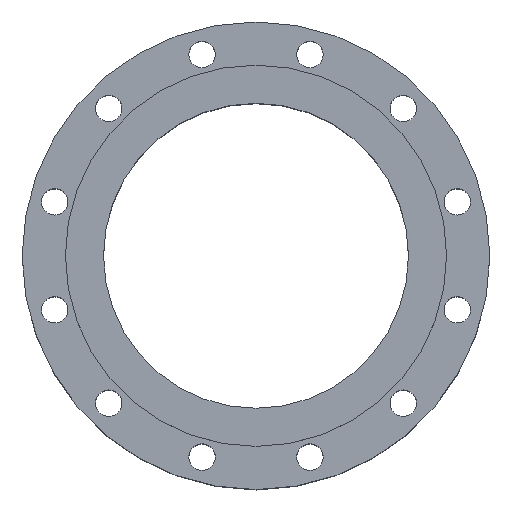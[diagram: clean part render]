
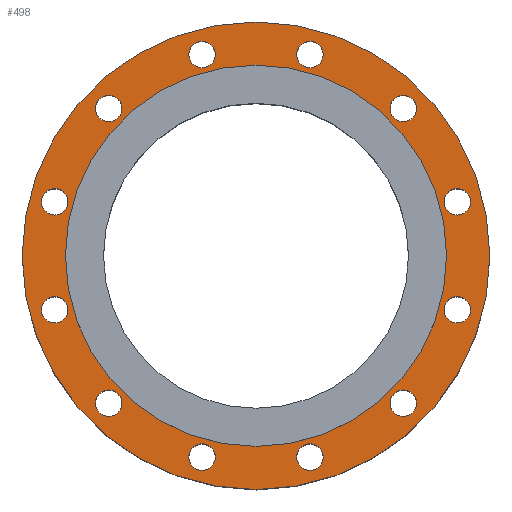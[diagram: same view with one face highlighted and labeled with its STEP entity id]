
A CAD part, top view. The second image highlights one B-rep face of the part: STEP entity #498.
In plain terms, the highlighted planar face has unit normal (0, 0, 1).
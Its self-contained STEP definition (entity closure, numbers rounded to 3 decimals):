
#498=ADVANCED_FACE('',(#1067,#1069,#1071,#1073,#1075,#1077,#1079,#1081,#1083,#1085,
#1087,#1089,#1091,#1093),#1095,.T.);
#1067=FACE_BOUND('',#1068,.T.);
#1068=EDGE_LOOP('',(#1388));
#1069=FACE_BOUND('',#1070,.T.);
#1070=EDGE_LOOP('',(#1389));
#1071=FACE_BOUND('',#1072,.T.);
#1072=EDGE_LOOP('',(#1390));
#1073=FACE_BOUND('',#1074,.T.);
#1074=EDGE_LOOP('',(#1391));
#1075=FACE_BOUND('',#1076,.T.);
#1076=EDGE_LOOP('',(#1392));
#1077=FACE_BOUND('',#1078,.T.);
#1078=EDGE_LOOP('',(#1393));
#1079=FACE_BOUND('',#1080,.T.);
#1080=EDGE_LOOP('',(#1394));
#1081=FACE_BOUND('',#1082,.T.);
#1082=EDGE_LOOP('',(#1395));
#1083=FACE_BOUND('',#1084,.T.);
#1084=EDGE_LOOP('',(#1396));
#1085=FACE_BOUND('',#1086,.T.);
#1086=EDGE_LOOP('',(#1397));
#1087=FACE_BOUND('',#1088,.T.);
#1088=EDGE_LOOP('',(#1398));
#1089=FACE_BOUND('',#1090,.T.);
#1090=EDGE_LOOP('',(#1399));
#1091=FACE_BOUND('',#1092,.T.);
#1092=EDGE_LOOP('',(#1400));
#1093=FACE_BOUND('',#1094,.T.);
#1094=EDGE_LOOP('',(#1401));
#1095=PLANE('',#1096);
#1096=AXIS2_PLACEMENT_3D('',#1097,#1098,#1099);
#1097=CARTESIAN_POINT('',(0.,0.,112.5));
#1098=DIRECTION('',(0.,0.,1.));
#1099=DIRECTION('',(0.,1.,0.));
#1388=ORIENTED_EDGE('',*,*,#1508,.F.);
#1389=ORIENTED_EDGE('',*,*,#1509,.T.);
#1390=ORIENTED_EDGE('',*,*,#1510,.T.);
#1391=ORIENTED_EDGE('',*,*,#1511,.T.);
#1392=ORIENTED_EDGE('',*,*,#1512,.T.);
#1393=ORIENTED_EDGE('',*,*,#1513,.T.);
#1394=ORIENTED_EDGE('',*,*,#1514,.T.);
#1395=ORIENTED_EDGE('',*,*,#1515,.T.);
#1396=ORIENTED_EDGE('',*,*,#1516,.T.);
#1397=ORIENTED_EDGE('',*,*,#1517,.T.);
#1398=ORIENTED_EDGE('',*,*,#1518,.T.);
#1399=ORIENTED_EDGE('',*,*,#1519,.T.);
#1400=ORIENTED_EDGE('',*,*,#1534,.T.);
#1401=ORIENTED_EDGE('',*,*,#1520,.T.);
#1508=EDGE_CURVE('',#1678,#1678,#1679,.T.);
#1509=EDGE_CURVE('',#1680,#1680,#1681,.T.);
#1510=EDGE_CURVE('',#1682,#1682,#1683,.T.);
#1511=EDGE_CURVE('',#1684,#1684,#1685,.T.);
#1512=EDGE_CURVE('',#1686,#1686,#1687,.T.);
#1513=EDGE_CURVE('',#1688,#1688,#1689,.T.);
#1514=EDGE_CURVE('',#1690,#1690,#1691,.T.);
#1515=EDGE_CURVE('',#1692,#1692,#1693,.T.);
#1516=EDGE_CURVE('',#1694,#1694,#1695,.T.);
#1517=EDGE_CURVE('',#1696,#1696,#1697,.T.);
#1518=EDGE_CURVE('',#1698,#1698,#1699,.T.);
#1519=EDGE_CURVE('',#1700,#1700,#1701,.T.);
#1520=EDGE_CURVE('',#1702,#1702,#1703,.T.);
#1534=EDGE_CURVE('',#1730,#1730,#1731,.T.);
#1678=VERTEX_POINT('',#3094);
#1679=CIRCLE('',#3095,230.);
#1680=VERTEX_POINT('',#3099);
#1681=CIRCLE('',#3100,13.);
#1682=VERTEX_POINT('',#3104);
#1683=CIRCLE('',#3105,13.);
#1684=VERTEX_POINT('',#3109);
#1685=CIRCLE('',#3110,13.);
#1686=VERTEX_POINT('',#3114);
#1687=CIRCLE('',#3115,13.);
#1688=VERTEX_POINT('',#3119);
#1689=CIRCLE('',#3120,13.);
#1690=VERTEX_POINT('',#3124);
#1691=CIRCLE('',#3125,13.);
#1692=VERTEX_POINT('',#3129);
#1693=CIRCLE('',#3130,13.);
#1694=VERTEX_POINT('',#3134);
#1695=CIRCLE('',#3135,13.);
#1696=VERTEX_POINT('',#3139);
#1697=CIRCLE('',#3140,13.);
#1698=VERTEX_POINT('',#3144);
#1699=CIRCLE('',#3145,13.);
#1700=VERTEX_POINT('',#3149);
#1701=CIRCLE('',#3150,13.);
#1702=VERTEX_POINT('',#3154);
#1703=CIRCLE('',#3155,13.);
#1730=VERTEX_POINT('',#3224);
#1731=CIRCLE('',#3225,187.5);
#3094=CARTESIAN_POINT('',(0.,230.,112.5));
#3095=AXIS2_PLACEMENT_3D('',#3096,#3097,#3098);
#3096=CARTESIAN_POINT('',(0.,0.,112.5));
#3097=DIRECTION('',(0.,0.,-1.));
#3098=DIRECTION('',(0.,1.,0.));
#3099=CARTESIAN_POINT('',(133.699,151.457,112.5));
#3100=AXIS2_PLACEMENT_3D('',#3101,#3102,#3103);
#3101=CARTESIAN_POINT('',(144.957,144.957,112.5));
#3102=DIRECTION('',(0.,0.,-1.));
#3103=DIRECTION('',(-0.866,0.5,0.));
#3104=CARTESIAN_POINT('',(191.515,64.316,112.5));
#3105=AXIS2_PLACEMENT_3D('',#3106,#3107,#3108);
#3106=CARTESIAN_POINT('',(198.015,53.058,112.5));
#3107=DIRECTION('',(0.,0.,-1.));
#3108=DIRECTION('',(-0.5,0.866,0.));
#3109=CARTESIAN_POINT('',(198.015,-40.058,112.5));
#3110=AXIS2_PLACEMENT_3D('',#3111,#3112,#3113);
#3111=CARTESIAN_POINT('',(198.015,-53.058,112.5));
#3112=DIRECTION('',(0.,0.,-1.));
#3113=DIRECTION('',(0.,1.,0.));
#3114=CARTESIAN_POINT('',(151.457,-133.699,112.5));
#3115=AXIS2_PLACEMENT_3D('',#3116,#3117,#3118);
#3116=CARTESIAN_POINT('',(144.957,-144.957,112.5));
#3117=DIRECTION('',(0.,0.,-1.));
#3118=DIRECTION('',(0.5,0.866,0.));
#3119=CARTESIAN_POINT('',(64.316,-191.515,112.5));
#3120=AXIS2_PLACEMENT_3D('',#3121,#3122,#3123);
#3121=CARTESIAN_POINT('',(53.058,-198.015,112.5));
#3122=DIRECTION('',(0.,0.,-1.));
#3123=DIRECTION('',(0.866,0.5,0.));
#3124=CARTESIAN_POINT('',(-40.058,-198.015,112.5));
#3125=AXIS2_PLACEMENT_3D('',#3126,#3127,#3128);
#3126=CARTESIAN_POINT('',(-53.058,-198.015,112.5));
#3127=DIRECTION('',(0.,0.,-1.));
#3128=DIRECTION('',(1.,0.,0.));
#3129=CARTESIAN_POINT('',(-133.699,-151.457,112.5));
#3130=AXIS2_PLACEMENT_3D('',#3131,#3132,#3133);
#3131=CARTESIAN_POINT('',(-144.957,-144.957,112.5));
#3132=DIRECTION('',(0.,0.,-1.));
#3133=DIRECTION('',(0.866,-0.5,0.));
#3134=CARTESIAN_POINT('',(-191.515,-64.316,112.5));
#3135=AXIS2_PLACEMENT_3D('',#3136,#3137,#3138);
#3136=CARTESIAN_POINT('',(-198.015,-53.058,112.5));
#3137=DIRECTION('',(0.,0.,-1.));
#3138=DIRECTION('',(0.5,-0.866,0.));
#3139=CARTESIAN_POINT('',(-198.015,40.058,112.5));
#3140=AXIS2_PLACEMENT_3D('',#3141,#3142,#3143);
#3141=CARTESIAN_POINT('',(-198.015,53.058,112.5));
#3142=DIRECTION('',(0.,0.,-1.));
#3143=DIRECTION('',(0.,-1.,0.));
#3144=CARTESIAN_POINT('',(-151.457,133.699,112.5));
#3145=AXIS2_PLACEMENT_3D('',#3146,#3147,#3148);
#3146=CARTESIAN_POINT('',(-144.957,144.957,112.5));
#3147=DIRECTION('',(0.,0.,-1.));
#3148=DIRECTION('',(-0.5,-0.866,0.));
#3149=CARTESIAN_POINT('',(-64.316,191.515,112.5));
#3150=AXIS2_PLACEMENT_3D('',#3151,#3152,#3153);
#3151=CARTESIAN_POINT('',(-53.058,198.015,112.5));
#3152=DIRECTION('',(0.,0.,-1.));
#3153=DIRECTION('',(-0.866,-0.5,0.));
#3154=CARTESIAN_POINT('',(40.058,198.015,112.5));
#3155=AXIS2_PLACEMENT_3D('',#3156,#3157,#3158);
#3156=CARTESIAN_POINT('',(53.058,198.015,112.5));
#3157=DIRECTION('',(0.,0.,-1.));
#3158=DIRECTION('',(-1.,0.,0.));
#3224=CARTESIAN_POINT('',(0.,187.5,112.5));
#3225=AXIS2_PLACEMENT_3D('',#3226,#3227,#3228);
#3226=CARTESIAN_POINT('',(0.,0.,112.5));
#3227=DIRECTION('',(0.,0.,-1.));
#3228=DIRECTION('',(0.,1.,0.));
